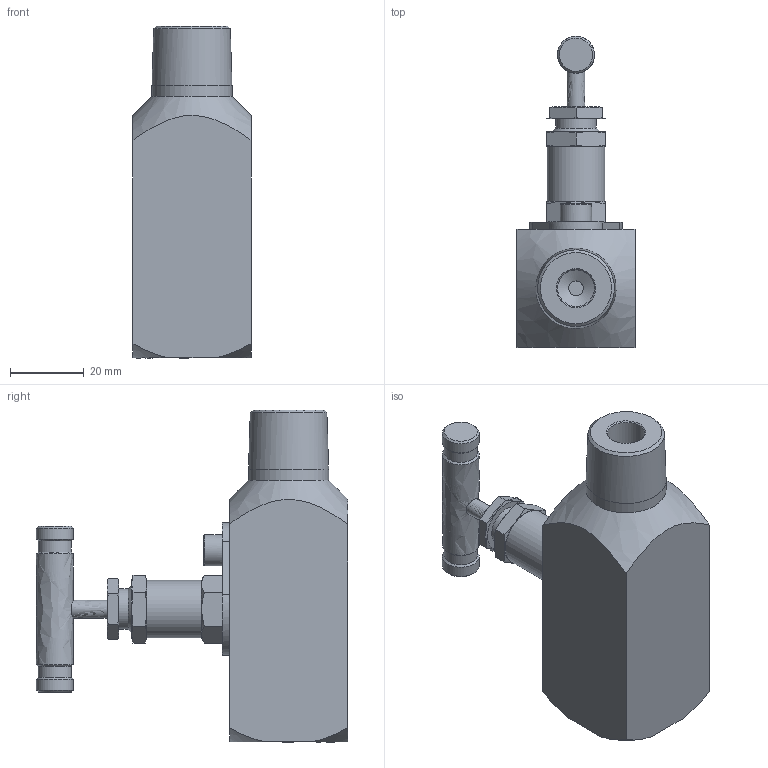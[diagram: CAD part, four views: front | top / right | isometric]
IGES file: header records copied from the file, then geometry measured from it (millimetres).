
Global section: file name: SGBV-M8N-F8N; native system: Autodesk Inventor 2016; preprocessor: unknown; author: DESIGNPC2; date: 20161006.211351; units: millimetre
Bounding box: 32 x 84.35 x 90 mm (x, y, z)
Volume: 78715 mm3; surface area: 19572.2 mm2
Topology: 3 solids, 3 shells, 128 faces, 336 edges, 223 vertices
Faces by surface type: bspline 128
